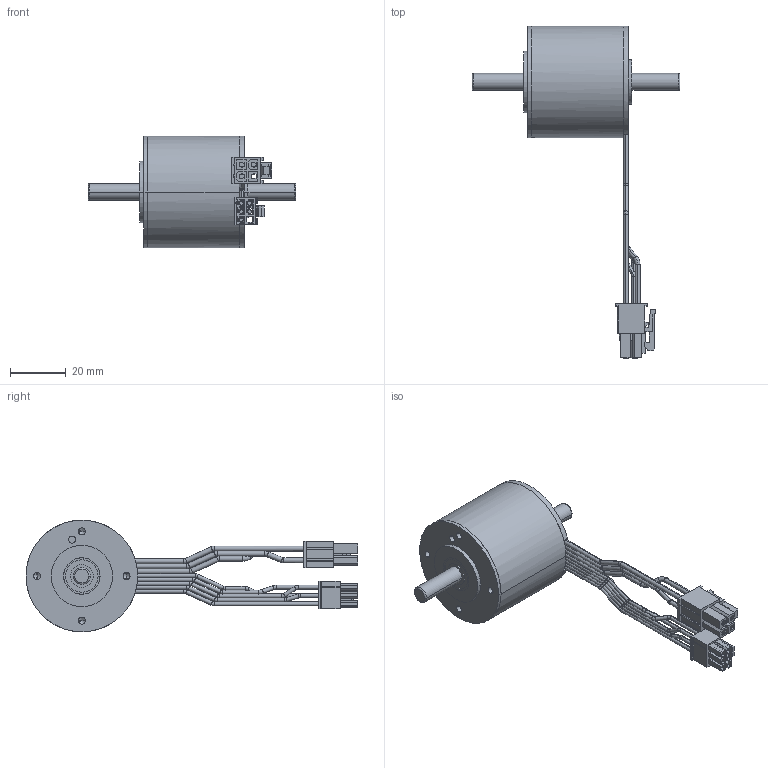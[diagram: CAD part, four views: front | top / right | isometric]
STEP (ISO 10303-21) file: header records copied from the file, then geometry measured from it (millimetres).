
FILE_DESCRIPTION((''),'2;1');
FILE_NAME('496654_ECI40_70W_HIGHTORQUE','2015-05-29T',('mmagpetk'),(''),'PRO/ENGINEER BY PARAMETRIC TECHNOLOGY CORPORATION, 2013130','PRO/ENGINEER BY PARAMETRIC TECHNOLOGY CORPORATION, 2013130','');
FILE_SCHEMA(('CONFIG_CONTROL_DESIGN'));
Length unit declared in the file: millimetre
Products named in the file (1): 496654_ECI40_70W_HIGHTORQUE
Bounding box: 74.5 x 118.9 x 40 mm (x, y, z)
Volume: 49513.8 mm3; surface area: 14097.2 mm2
Topology: 2 solids, 2 shells, 605 faces, 1623 edges, 1015 vertices
Faces by surface type: plane 363, cylinder 136, torus 76, cone 30
Entity records: 19168 total; most frequent: CARTESIAN_POINT 3890, ORIENTED_EDGE 3198, DIRECTION 3135, EDGE_CURVE 1599, VECTOR 1163, LINE 1163, VERTEX_POINT 1014, AXIS2_PLACEMENT_3D 986
